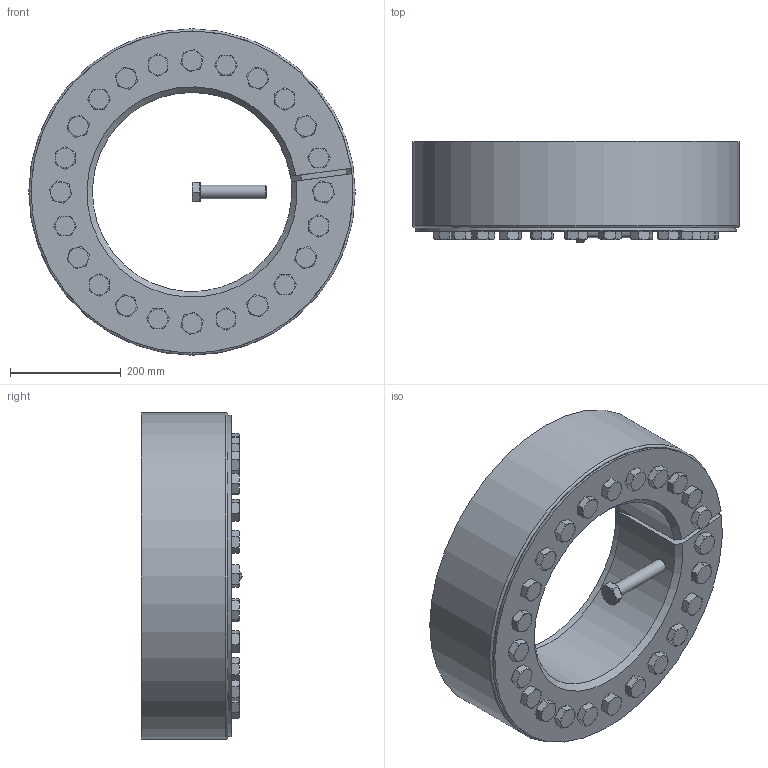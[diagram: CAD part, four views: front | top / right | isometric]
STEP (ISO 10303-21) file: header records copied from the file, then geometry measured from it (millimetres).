
FILE_DESCRIPTION( ( 'Unknown' ), '1' );
FILE_NAME( 'C:/Dokumente und Einstellungen/Sven/Desktop/homepage/cad - homepage/KBS19-1/KBS 19_1 - 360 x 590.stp', 'Unknown', ( 'Unknown' ), ( 'Unknown' ), 'XStep 1.0', 'Unknown', ' ' );
FILE_SCHEMA( ( 'automotive_design' ) );
Length unit declared in the file: millimetre
Products named in the file (3): Assem1; KBS 19_1 - 360 x 590; ISO 4017 - M24 x 120-N
Bounding box: 590 x 182.78 x 590 mm (x, y, z)
Volume: 53450793.6 mm3; surface area: 2537575.6 mm2
Topology: 27 solids, 27 shells, 703 faces, 1566 edges, 942 vertices
Faces by surface type: plane 393, cone 181, cylinder 102, torus 27
Full cylindrical faces by diameter (mm): 24 x73, 36 x25, 590 x2
Entity records: 2314 total; most frequent: CARTESIAN_POINT 401, DIRECTION 368, ORIENTED_EDGE 262, AXIS2_PLACEMENT_3D 165, EDGE_LOOP 145, EDGE_CURVE 131, VERTEX_POINT 102, FACE_OUTER_BOUND 93
